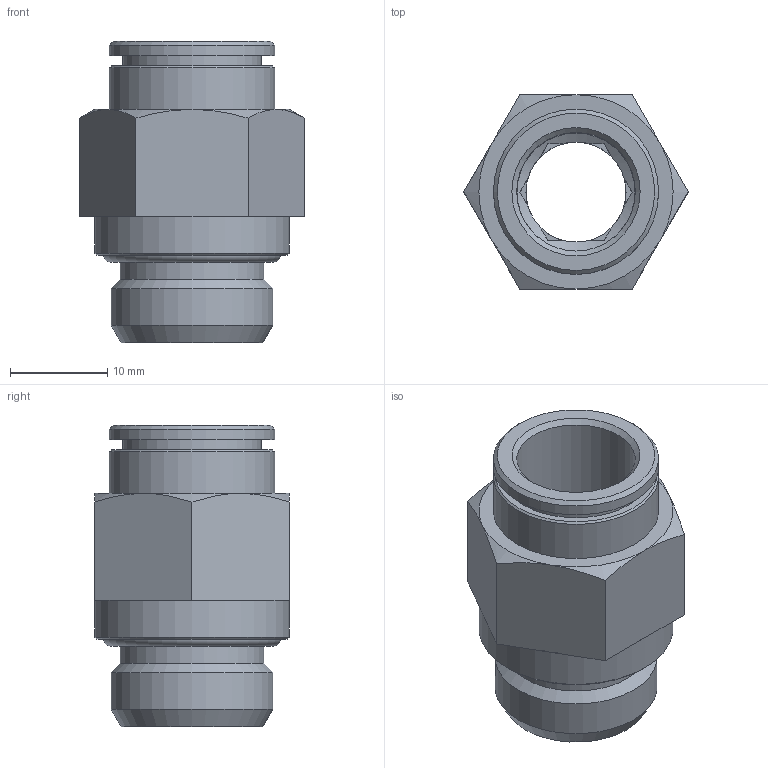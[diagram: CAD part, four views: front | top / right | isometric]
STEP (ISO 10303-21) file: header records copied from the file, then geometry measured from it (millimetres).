
FILE_DESCRIPTION(/* description */ (''),/* implementation_level */ '2;1');
FILE_NAME(/* name */ '200114ES_STX_01_12_3-8_16.04.15',/* time_stamp */ '2015-04-16T12:22:06+02:00',/* author */ (''),/* organization */ (''),/* preprocessor_version */ 'ST-DEVELOPER v14',/* originating_system */ 'HiCAD 2013 1802.3 Build 408',/* authorisation */ '');
FILE_SCHEMA (('AUTOMOTIVE_DESIGN { 1 0 10303 214 1 1 1 1 }'));
Length unit declared in the file: millimetre
Products named in the file (4): Root; OR 14X1.78; R200114-ES; DR12
Assembly tree (3 placements, depth 2):
  Root
    OR 14X1.78
    R200114-ES
    DR12
Bounding box: 23.09 x 20 x 31 mm (x, y, z)
Volume: 4748.9 mm3; surface area: 4832.9 mm2
Topology: 3 solids, 3 shells, 71 faces, 164 edges, 103 vertices
Faces by surface type: plane 40, cone 17, cylinder 11, torus 3
Full cylindrical faces by diameter (mm): 10.3 x1, 12.15 x1, 12.2 x1, 13.2 x1, 14.3 x1, 14.5 x1, 14.75 x1, 16.662 x1, 17 x2, 20 x1
Entity records: 3174 total; most frequent: DIRECTION 362, CARTESIAN_POINT 297, PRESENTATION_STYLE_ASSIGNMENT 259, COLOUR_RGB 259, DRAUGHTING_PRE_DEFINED_CURVE_FONT 256, CURVE_STYLE 256, OVER_RIDING_STYLED_ITEM 256, ORIENTED_EDGE 256
